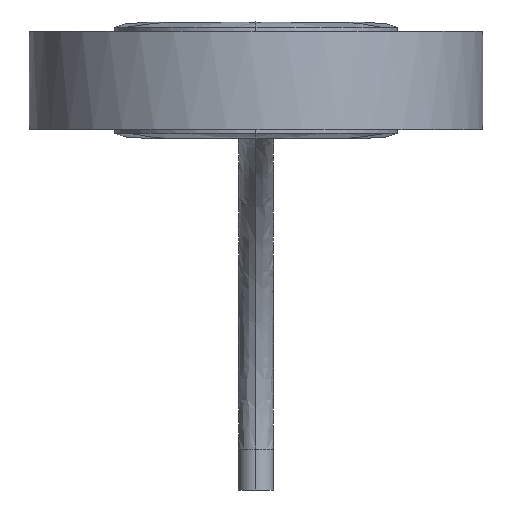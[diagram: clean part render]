
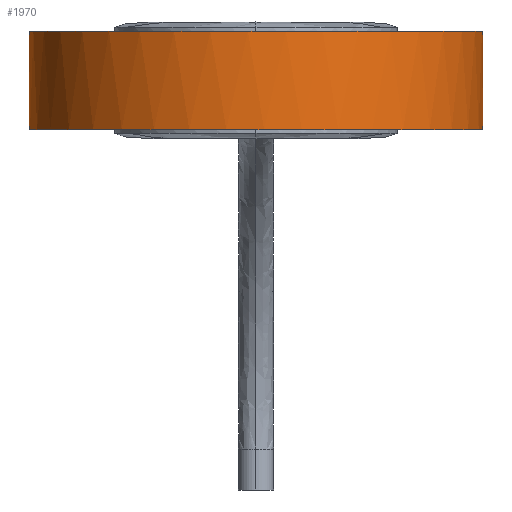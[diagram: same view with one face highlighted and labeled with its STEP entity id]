
A CAD part, front view. The second image highlights one B-rep face of the part: STEP entity #1970.
In plain terms, the highlighted free-form (B-spline) face has degree [11, 1] with [12, 2] control points.
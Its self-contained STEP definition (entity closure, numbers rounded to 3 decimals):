
#18 = VERTEX_POINT ( 'NONE', #720 ) ;
#51 = VERTEX_POINT ( 'NONE', #2616 ) ;
#146 = EDGE_CURVE ( 'NONE', #1731, #1259, #1619, .T. ) ;
#189 = CARTESIAN_POINT ( 'NONE',  ( -22.6, -19.005, 4.2 ) ) ;
#229 = VECTOR ( 'NONE', #884, 1000. ) ;
#239 = CARTESIAN_POINT ( 'NONE',  ( 9.019, -29.641, -4.2 ) ) ;
#282 = CARTESIAN_POINT ( 'NONE',  ( -9.019, -29.6, -4.2 ) ) ;
#312 = CARTESIAN_POINT ( 'NONE',  ( 22.884, 9.462, -4.2 ) ) ;
#323 = DIRECTION ( 'NONE',  ( 0., 0., 1. ) ) ;
#412 = CARTESIAN_POINT ( 'NONE',  ( 3.25, 19.126, -4.2 ) ) ;
#451 = CARTESIAN_POINT ( 'NONE',  ( -22.412, 11.562, -4.368 ) ) ;
#503 = CARTESIAN_POINT ( 'NONE',  ( -24.188, -18.694, 4.368 ) ) ;
#531 = CARTESIAN_POINT ( 'NONE',  ( -3.25, 19.126, 4.2 ) ) ;
#548 = CARTESIAN_POINT ( 'NONE',  ( -3.25, 19.126, -4.2 ) ) ;
#637 = ORIENTED_EDGE ( 'NONE', *, *, #2955, .T. ) ;
#661 = B_SPLINE_CURVE_WITH_KNOTS ( 'NONE', 11,
 ( #548, #2469, #1371, #1639, #2741, #282, #239, #2482, #1366, #312, #2988, #3508 ),
 .UNSPECIFIED., .F., .F.,
 ( 12, 12 ),
 ( 0., 0.115 ),
 .UNSPECIFIED. ) ;
#713 = CARTESIAN_POINT ( 'NONE',  ( 28.011, -2.236, -4.368 ) ) ;
#720 = CARTESIAN_POINT ( 'NONE',  ( -3.25, 19.126, -4.2 ) ) ;
#736 = VECTOR ( 'NONE', #1182, 1000. ) ;
#739 = ORIENTED_EDGE ( 'NONE', *, *, #1486, .T. ) ;
#745 = DIRECTION ( 'NONE',  ( 0., 0., 1. ) ) ;
#747 = CARTESIAN_POINT ( 'NONE',  ( -9.872, -30.7, -4.368 ) ) ;
#780 = DIRECTION ( 'NONE',  ( 0., 0., -1. ) ) ;
#828 = CARTESIAN_POINT ( 'NONE',  ( -3.25, 19.126, 0. ) ) ;
#835 = B_SPLINE_CURVE_WITH_KNOTS ( 'NONE', 11,
 ( #1019, #1335, #2179, #1854, #2394, #1548, #2723, #189, #2936, #2954, #2141, #531 ),
 .UNSPECIFIED., .F., .F.,
 ( 12, 12 ),
 ( 0., 0.115 ),
 .UNSPECIFIED. ) ;
#884 = DIRECTION ( 'NONE',  ( 0., 0., -1. ) ) ;
#973 = CARTESIAN_POINT ( 'NONE',  ( 24.188, -18.655, 4.368 ) ) ;
#989 = CARTESIAN_POINT ( 'NONE',  ( -11.851, 18.838, 4.368 ) ) ;
#1019 = CARTESIAN_POINT ( 'NONE',  ( 3.25, 19.126, 4.2 ) ) ;
#1174 = EDGE_CURVE ( 'NONE', #3063, #1514, #3085, .T. ) ;
#1182 = DIRECTION ( 'NONE',  ( 0., 0., 1. ) ) ;
#1239 = ORIENTED_EDGE ( 'NONE', *, *, #3247, .T. ) ;
#1259 = VERTEX_POINT ( 'NONE', #3004 ) ;
#1263 = CARTESIAN_POINT ( 'NONE',  ( 9.871, -30.761, -4.368 ) ) ;
#1279 = CARTESIAN_POINT ( 'NONE',  ( 22.412, 11.562, 4.368 ) ) ;
#1299 = CARTESIAN_POINT ( 'NONE',  ( 11.851, 18.838, 4.368 ) ) ;
#1335 = CARTESIAN_POINT ( 'NONE',  ( 13.589, 17.369, 4.2 ) ) ;
#1366 = CARTESIAN_POINT ( 'NONE',  ( 27.071, -3.906, -4.2 ) ) ;
#1371 = CARTESIAN_POINT ( 'NONE',  ( -22.884, 9.463, -4.2 ) ) ;
#1372 = CARTESIAN_POINT ( 'NONE',  ( -3.25, 19.126, 0. ) ) ;
#1422 = CARTESIAN_POINT ( 'NONE',  ( -3.25, 19.126, 0.812 ) ) ;
#1439 = EDGE_CURVE ( 'NONE', #1949, #1731, #2127, .T. ) ;
#1486 = EDGE_CURVE ( 'NONE', #2471, #3063, #2106, .T. ) ;
#1514 = VERTEX_POINT ( 'NONE', #3496 ) ;
#1516 = LINE ( 'NONE', #412, #736 ) ;
#1548 = CARTESIAN_POINT ( 'NONE',  ( 9.019, -29.641, 4.2 ) ) ;
#1571 = CARTESIAN_POINT ( 'NONE',  ( 9.871, -30.761, 4.368 ) ) ;
#1591 = CARTESIAN_POINT ( 'NONE',  ( -3.25, 19.126, 4.2 ) ) ;
#1619 = LINE ( 'NONE', #828, #2713 ) ;
#1639 = CARTESIAN_POINT ( 'NONE',  ( -27.071, -3.9, -4.2 ) ) ;
#1663 = ORIENTED_EDGE ( 'NONE', *, *, #1174, .T. ) ;
#1672 = DIRECTION ( 'NONE',  ( 0., 0., -1. ) ) ;
#1731 = VERTEX_POINT ( 'NONE', #1422 ) ;
#1815 = B_SPLINE_SURFACE_WITH_KNOTS ( 'NONE', 11, 1, ( 
 ( #2907, #1862 ),
 ( #1299, #2962 ),
 ( #1279, #2327 ),
 ( #3428, #713 ),
 ( #973, #2058 ),
 ( #1571, #1263 ),
 ( #2091, #747 ),
 ( #503, #2381 ),
 ( #1842, #3158 ),
 ( #3479, #451 ),
 ( #989, #2363 ),
 ( #2942, #2674 ) ),
 .UNSPECIFIED., .F., .F., .F.,
 ( 12, 12 ),
 ( 2, 2 ),
 ( -3.092, 3.092 ),
 ( 0.252, 8.988 ),
 .UNSPECIFIED. ) ;
#1842 = CARTESIAN_POINT ( 'NONE',  ( -28.011, -2.224, 4.368 ) ) ;
#1854 = CARTESIAN_POINT ( 'NONE',  ( 27.071, -3.906, 4.2 ) ) ;
#1862 = CARTESIAN_POINT ( 'NONE',  ( 0.958, 19.376, -4.368 ) ) ;
#1949 = VERTEX_POINT ( 'NONE', #1591 ) ;
#1970 = ADVANCED_FACE ( 'NONE', ( #2074 ), #1815, .T. ) ;
#2058 = CARTESIAN_POINT ( 'NONE',  ( 24.188, -18.655, -4.368 ) ) ;
#2074 = FACE_OUTER_BOUND ( 'NONE', #3354, .T. ) ;
#2091 = CARTESIAN_POINT ( 'NONE',  ( -9.872, -30.7, 4.368 ) ) ;
#2106 = LINE ( 'NONE', #3210, #2409 ) ;
#2127 = LINE ( 'NONE', #2438, #3498 ) ;
#2141 = CARTESIAN_POINT ( 'NONE',  ( -13.589, 17.369, 4.2 ) ) ;
#2179 = CARTESIAN_POINT ( 'NONE',  ( 22.884, 9.462, 4.2 ) ) ;
#2304 = EDGE_CURVE ( 'NONE', #18, #51, #661, .T. ) ;
#2327 = CARTESIAN_POINT ( 'NONE',  ( 22.412, 11.562, -4.368 ) ) ;
#2363 = CARTESIAN_POINT ( 'NONE',  ( -11.851, 18.838, -4.368 ) ) ;
#2381 = CARTESIAN_POINT ( 'NONE',  ( -24.188, -18.694, -4.368 ) ) ;
#2394 = CARTESIAN_POINT ( 'NONE',  ( 22.6, -18.981, 4.2 ) ) ;
#2409 = VECTOR ( 'NONE', #745, 1000. ) ;
#2438 = CARTESIAN_POINT ( 'NONE',  ( -3.25, 19.126, 0. ) ) ;
#2453 = ORIENTED_EDGE ( 'NONE', *, *, #2304, .T. ) ;
#2469 = CARTESIAN_POINT ( 'NONE',  ( -13.589, 17.369, -4.2 ) ) ;
#2471 = VERTEX_POINT ( 'NONE', #3106 ) ;
#2482 = CARTESIAN_POINT ( 'NONE',  ( 22.6, -18.981, -4.2 ) ) ;
#2616 = CARTESIAN_POINT ( 'NONE',  ( 3.25, 19.126, -4.2 ) ) ;
#2650 = CARTESIAN_POINT ( 'NONE',  ( 3.25, 19.126, 0.812 ) ) ;
#2674 = CARTESIAN_POINT ( 'NONE',  ( -0.958, 19.376, -4.368 ) ) ;
#2713 = VECTOR ( 'NONE', #1672, 1000. ) ;
#2723 = CARTESIAN_POINT ( 'NONE',  ( -9.019, -29.6, 4.2 ) ) ;
#2726 = ORIENTED_EDGE ( 'NONE', *, *, #1439, .T. ) ;
#2741 = CARTESIAN_POINT ( 'NONE',  ( -22.6, -19.005, -4.2 ) ) ;
#2907 = CARTESIAN_POINT ( 'NONE',  ( 0.958, 19.376, 4.368 ) ) ;
#2936 = CARTESIAN_POINT ( 'NONE',  ( -27.071, -3.9, 4.2 ) ) ;
#2942 = CARTESIAN_POINT ( 'NONE',  ( -0.958, 19.376, 4.368 ) ) ;
#2954 = CARTESIAN_POINT ( 'NONE',  ( -22.884, 9.463, 4.2 ) ) ;
#2955 = EDGE_CURVE ( 'NONE', #51, #2471, #1516, .T. ) ;
#2962 = CARTESIAN_POINT ( 'NONE',  ( 11.851, 18.838, -4.368 ) ) ;
#2988 = CARTESIAN_POINT ( 'NONE',  ( 13.589, 17.369, -4.2 ) ) ;
#3004 = CARTESIAN_POINT ( 'NONE',  ( -3.25, 19.126, -0.812 ) ) ;
#3043 = VECTOR ( 'NONE', #323, 1000. ) ;
#3063 = VERTEX_POINT ( 'NONE', #2650 ) ;
#3078 = LINE ( 'NONE', #1372, #229 ) ;
#3085 = LINE ( 'NONE', #3390, #3043 ) ;
#3106 = CARTESIAN_POINT ( 'NONE',  ( 3.25, 19.126, -0.812 ) ) ;
#3130 = EDGE_CURVE ( 'NONE', #1514, #1949, #835, .T. ) ;
#3158 = CARTESIAN_POINT ( 'NONE',  ( -28.011, -2.224, -4.368 ) ) ;
#3210 = CARTESIAN_POINT ( 'NONE',  ( 3.25, 19.126, -0.812 ) ) ;
#3247 = EDGE_CURVE ( 'NONE', #1259, #18, #3078, .T. ) ;
#3320 = ORIENTED_EDGE ( 'NONE', *, *, #3130, .T. ) ;
#3354 = EDGE_LOOP ( 'NONE', ( #2726, #3550, #1239, #2453, #637, #739, #1663, #3320 ) ) ;
#3390 = CARTESIAN_POINT ( 'NONE',  ( 3.25, 19.126, 0.812 ) ) ;
#3428 = CARTESIAN_POINT ( 'NONE',  ( 28.011, -2.236, 4.368 ) ) ;
#3479 = CARTESIAN_POINT ( 'NONE',  ( -22.412, 11.562, 4.368 ) ) ;
#3496 = CARTESIAN_POINT ( 'NONE',  ( 3.25, 19.126, 4.2 ) ) ;
#3498 = VECTOR ( 'NONE', #780, 1000. ) ;
#3508 = CARTESIAN_POINT ( 'NONE',  ( 3.25, 19.126, -4.2 ) ) ;
#3550 = ORIENTED_EDGE ( 'NONE', *, *, #146, .T. ) ;
